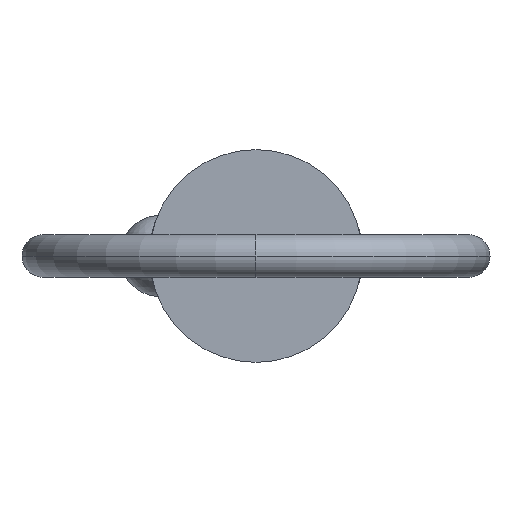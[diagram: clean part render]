
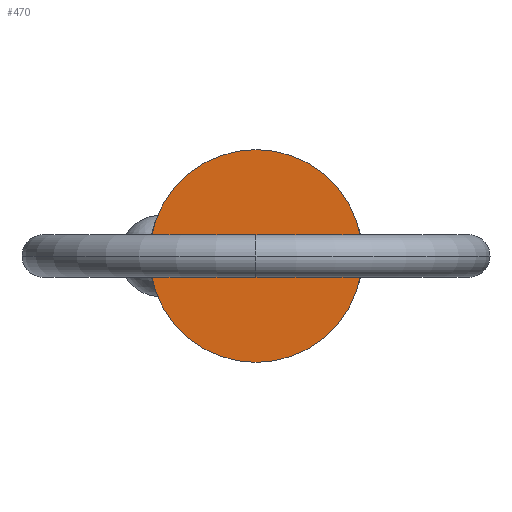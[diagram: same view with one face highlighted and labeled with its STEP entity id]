
A CAD part, left-side view. The second image highlights one B-rep face of the part: STEP entity #470.
In plain terms, the highlighted planar face has unit normal (-1, 0, 0).
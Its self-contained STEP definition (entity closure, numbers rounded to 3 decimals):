
#10 = CARTESIAN_POINT ( 'NONE',  ( 0., 0., 0. ) ) ;
#63 = ORIENTED_EDGE ( 'NONE', *, *, #634, .F. ) ;
#99 = CIRCLE ( 'NONE', #379, 9.525 ) ;
#113 = DIRECTION ( 'NONE',  ( 0., 0., -1. ) ) ;
#143 = EDGE_CURVE ( 'NONE', #417, #581, #99, .T. ) ;
#217 = DIRECTION ( 'NONE',  ( -1., 0., 0. ) ) ;
#275 = ORIENTED_EDGE ( 'NONE', *, *, #143, .F. ) ;
#297 = CARTESIAN_POINT ( 'NONE',  ( 0., 0., 9.525 ) ) ;
#350 = CIRCLE ( 'NONE', #752, 9.525 ) ;
#379 = AXIS2_PLACEMENT_3D ( 'NONE', #803, #729, #113 ) ;
#417 = VERTEX_POINT ( 'NONE', #564 ) ;
#433 = FACE_OUTER_BOUND ( 'NONE', #795, .T. ) ;
#436 = DIRECTION ( 'NONE',  ( 1., 0., 0. ) ) ;
#470 = ADVANCED_FACE ( 'NONE', ( #433 ), #718, .T. ) ;
#492 = DIRECTION ( 'NONE',  ( 0., 0., 1. ) ) ;
#564 = CARTESIAN_POINT ( 'NONE',  ( 0., 0., -9.525 ) ) ;
#573 = AXIS2_PLACEMENT_3D ( 'NONE', #10, #217, #492 ) ;
#581 = VERTEX_POINT ( 'NONE', #297 ) ;
#634 = EDGE_CURVE ( 'NONE', #581, #417, #350, .T. ) ;
#718 = PLANE ( 'NONE',  #573 ) ;
#729 = DIRECTION ( 'NONE',  ( 1., 0., 0. ) ) ;
#752 = AXIS2_PLACEMENT_3D ( 'NONE', #852, #436, #786 ) ;
#786 = DIRECTION ( 'NONE',  ( 0., 0., -1. ) ) ;
#795 = EDGE_LOOP ( 'NONE', ( #275, #63 ) ) ;
#803 = CARTESIAN_POINT ( 'NONE',  ( 0., 0., 0. ) ) ;
#852 = CARTESIAN_POINT ( 'NONE',  ( 0., 0., 0. ) ) ;
